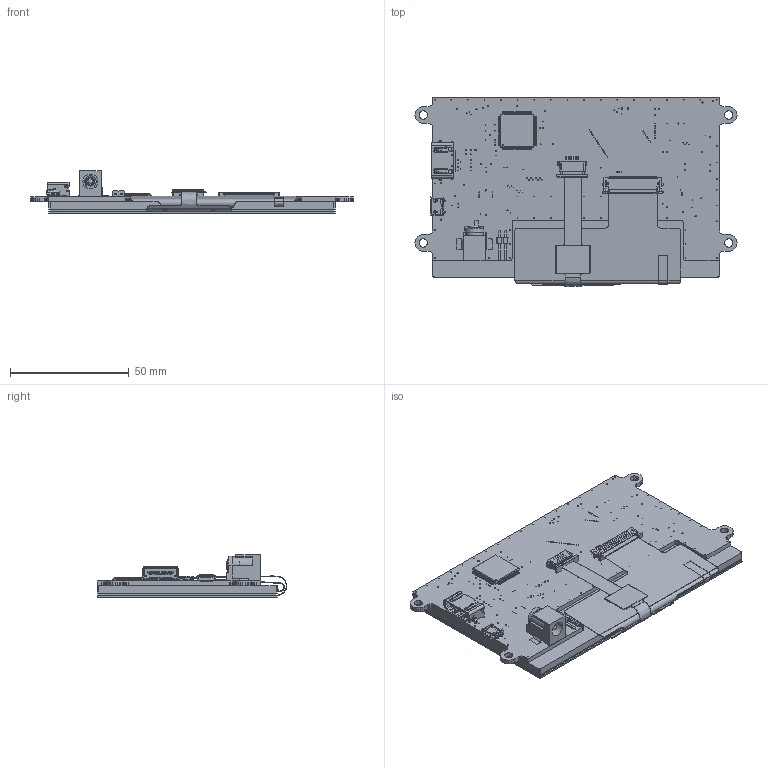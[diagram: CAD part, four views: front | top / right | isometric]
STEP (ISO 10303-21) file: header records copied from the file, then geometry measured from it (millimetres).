
FILE_DESCRIPTION (( 'STEP AP203' ), '1' );
FILE_NAME ('NHD-5.0-HDMI-N-RTXL-CTU.STEP', '2022-08-05T20:33:29', ( '' ), ( '' ), 'SwSTEP 2.0', 'SolidWorks 2019', '' );
FILE_SCHEMA (( 'CONFIG_CONTROL_DESIGN' ));
Length unit declared in the file: millimetre
Products named in the file (1): NHD-5.0-HDMI-N-RTXL-CTU
Bounding box: 135.8 x 79.78 x 17.85 mm (x, y, z)
Surface area: 103092.9 mm2 (no closed solid volume)
Topology: 0 solids, 52 shells, 3613 faces, 16347 edges, 12241 vertices
Faces by surface type: plane 2525, cylinder 1026, bspline 44, torus 10, cone 8
Entity records: 167913 total; most frequent: CARTESIAN_POINT 35836, DIRECTION 26211, ORIENTED_EDGE 25638, EDGE_CURVE 16344, LINE 12637, VECTOR 12637, VERTEX_POINT 12241, AXIS2_PLACEMENT_3D 6787
